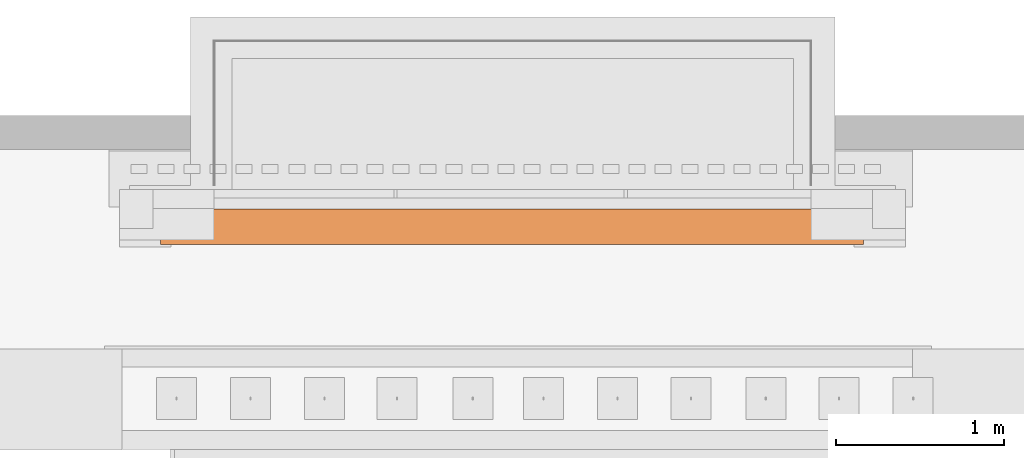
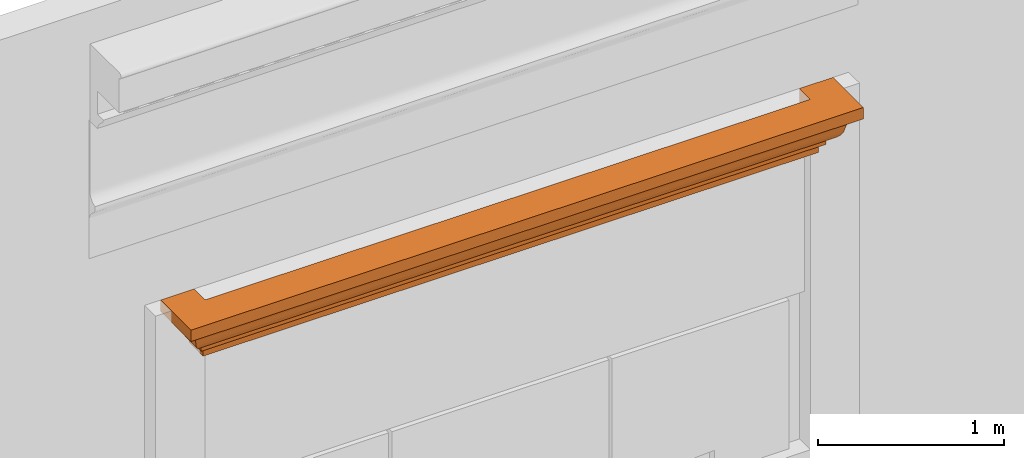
# One storey, part 13 of 14: 1 proxy.
"""IFC2X3 building model written with IfcOpenShell, lengths in metres."""

from ifc_helpers import new_model, entity, si_unit, converted_unit, derived_unit, direction, frame, origin, place, context, subcontext, project, spatial, faceted_brep, material, element, save


model = new_model("IFC2X3")

# Units and contexts
model_context = context("Model", 3, precision=1e-05, world=origin(), true_north=direction((6.12303176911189e-17, 1.0)))
body_context = subcontext(model_context, "Body", "Model", "MODEL_VIEW")
ifc_project = project(units=[si_unit("LENGTHUNIT", "METRE"), si_unit("AREAUNIT", "SQUARE_METRE"), si_unit("VOLUMEUNIT", "CUBIC_METRE"), converted_unit("PLANEANGLEUNIT", "DEGREE", entity("IfcRatioMeasure", 0.0174532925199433), si_unit("PLANEANGLEUNIT", "RADIAN"), dimensions=[0, 0, 0, 0, 0, 0, 0]), si_unit("MASSUNIT", "GRAM", prefix="KILO"), derived_unit("MASSDENSITYUNIT", [(si_unit("MASSUNIT", "GRAM", prefix="KILO"), 1), (si_unit("LENGTHUNIT", "METRE"), -3)]), si_unit("TIMEUNIT", "SECOND"), si_unit("FREQUENCYUNIT", "HERTZ"), si_unit("THERMODYNAMICTEMPERATUREUNIT", "DEGREE_CELSIUS"), derived_unit("THERMALTRANSMITTANCEUNIT", [(si_unit("MASSUNIT", "GRAM", prefix="KILO"), 1), (si_unit("THERMODYNAMICTEMPERATUREUNIT", "KELVIN"), -1), (si_unit("TIMEUNIT", "SECOND"), -3)]), derived_unit("VOLUMETRICFLOWRATEUNIT", [(si_unit("LENGTHUNIT", "METRE"), 3), (si_unit("TIMEUNIT", "SECOND"), -1)]), si_unit("ELECTRICCURRENTUNIT", "AMPERE"), si_unit("ELECTRICVOLTAGEUNIT", "VOLT"), si_unit("POWERUNIT", "WATT"), si_unit("FORCEUNIT", "NEWTON", prefix="KILO"), si_unit("ILLUMINANCEUNIT", "LUX"), si_unit("LUMINOUSFLUXUNIT", "LUMEN"), si_unit("LUMINOUSINTENSITYUNIT", "CANDELA"), derived_unit("USERDEFINED", [(si_unit("MASSUNIT", "GRAM", prefix="KILO"), -1), (si_unit("LENGTHUNIT", "METRE"), -2), (si_unit("TIMEUNIT", "SECOND"), 3), (si_unit("LUMINOUSFLUXUNIT", "LUMEN"), 1)]), derived_unit("LINEARVELOCITYUNIT", [(si_unit("LENGTHUNIT", "METRE"), 1), (si_unit("TIMEUNIT", "SECOND"), -1)]), si_unit("PRESSUREUNIT", "PASCAL"), derived_unit("USERDEFINED", [(si_unit("LENGTHUNIT", "METRE"), -2), (si_unit("MASSUNIT", "GRAM", prefix="KILO"), 1), (si_unit("TIMEUNIT", "SECOND"), -2)])], contexts=[model_context])

# Site, building, storey
site_placement = place(None, origin())
site = spatial("IfcSite", under=ifc_project, at=site_placement, Name="Default", CompositionType="ELEMENT")
building_placement = place(site_placement, origin())
building = spatial("IfcBuilding", under=site, at=building_placement, CompositionType="ELEMENT")
storey_placement = place(building_placement, frame((0.0, 0.0, 13.366833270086)))
storey = spatial("IfcBuildingStorey", under=building, at=storey_placement, Name="Livello 2", CompositionType="ELEMENT", Elevation=13.366833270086)

# Proxy
ifc_material = material(Name="Travertino")
proxy_placement = place(storey_placement, frame((-9.26131853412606, 0.6976591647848, 7.72619310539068)))
element("IfcBuildingElementProxy", 1, at=proxy_placement, inside=storey, material=ifc_material, Name="Stratigrafia", context=body_context, shape_type="Brep", body=[
    faceted_brep([(0.0238381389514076, 0.327873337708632, 0.256423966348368), (0.00159527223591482, 0.327873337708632, 0.264509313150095), (0.00137691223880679, 0.327873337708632, 0.33947525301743), (0.210222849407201, 0.327873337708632, 0.33947525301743), (0.210222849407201, 0.327873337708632, 0.0), (0.177714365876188, 0.327873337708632, 0.0), (0.177602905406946, 0.327873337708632, 0.060083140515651), (0.148474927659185, 0.327873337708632, 0.060083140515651), (0.148474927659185, 0.327873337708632, 0.0966946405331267), (0.125981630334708, 0.327873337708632, 0.104804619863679), (0.10618583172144, 0.327873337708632, 0.118215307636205), (0.0903123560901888, 0.327873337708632, 0.136096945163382), (0.0793433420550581, 0.327873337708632, 0.157343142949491), (0.0739574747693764, 0.327873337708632, 0.180639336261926), (0.069218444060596, 0.327873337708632, 0.203826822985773), (0.0587808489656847, 0.327873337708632, 0.225067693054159), (0.0433204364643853, 0.327873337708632, 0.242986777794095), (4.17513991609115, 0.327873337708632, 0.33947525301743), (4.17492155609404, 0.327873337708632, 0.264509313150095), (4.15267868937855, 0.327873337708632, 0.256423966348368), (4.13319639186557, 0.327873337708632, 0.242986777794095), (4.11773597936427, 0.327873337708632, 0.225067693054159), (4.10729838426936, 0.327873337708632, 0.203826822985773), (4.10255935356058, 0.327873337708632, 0.180639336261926), (4.0971734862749, 0.327873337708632, 0.157343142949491), (4.08620447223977, 0.327873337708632, 0.136096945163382), (4.07033099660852, 0.327873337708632, 0.118215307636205), (4.05053519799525, 0.327873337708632, 0.104804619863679), (4.02804190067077, 0.327873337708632, 0.0966946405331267), (4.02804190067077, 0.327873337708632, 0.060083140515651), (3.99891392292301, 0.327873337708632, 0.060083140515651), (3.99880246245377, 0.327873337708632, 0.0), (3.96629397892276, 0.327873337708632, 0.0), (3.96629397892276, 0.327873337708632, 0.33947525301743), (3.99880246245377, 0.177714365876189, 0.0), (0.177714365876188, 0.177714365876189, 0.0), (0.210222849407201, 0.210222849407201, 0.0), (3.96629397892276, 0.210222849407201, 0.0), (0.177602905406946, 0.177602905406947, 0.060083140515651), (4.02804190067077, 0.148474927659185, 0.060083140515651), (0.148474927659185, 0.148474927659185, 0.060083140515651), (3.99891392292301, 0.177602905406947, 0.060083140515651), (0.148474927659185, 0.148474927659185, 0.0966946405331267), (0.125981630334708, 0.125981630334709, 0.104804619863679), (0.106185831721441, 0.106185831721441, 0.118215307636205), (0.0903123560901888, 0.0903123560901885, 0.136096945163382), (0.0793433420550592, 0.0793433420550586, 0.157343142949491), (0.0739574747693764, 0.0739574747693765, 0.180639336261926), (0.069218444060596, 0.0692184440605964, 0.203826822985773), (0.0587808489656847, 0.0587808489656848, 0.225067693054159), (0.0433204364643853, 0.043320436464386, 0.242986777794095), (0.0238381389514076, 0.023838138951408, 0.256423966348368), (0.0015952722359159, 0.00159527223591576, 0.264509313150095), (0.0013769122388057, 0.00137691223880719, 0.33947525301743), (4.17513991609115, 0.00137691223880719, 0.33947525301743), (3.96629397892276, 0.210222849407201, 0.33947525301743), (0.210222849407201, 0.210222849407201, 0.33947525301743), (4.02804190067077, 0.148474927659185, 0.0966946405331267), (3.45760718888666, 0.148474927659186, 0.0966946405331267), (2.88719634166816, 0.148474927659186, 0.0966946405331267), (2.20252195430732, 0.148474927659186, 0.0966946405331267), (1.51784756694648, 0.148474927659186, 0.0966946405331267), (0.833173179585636, 0.148474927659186, 0.0966946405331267), (0.490812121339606, 0.148474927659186, 0.0966946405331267), (3.60473155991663, 0.097218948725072, 0.12719634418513), (4.08620447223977, 0.0903123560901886, 0.136096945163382), (3.41644363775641, 0.083844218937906, 0.147003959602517), (3.66972915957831, 0.0773610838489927, 0.163344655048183), (4.10255935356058, 0.073957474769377, 0.180639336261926), (3.42905273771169, 0.073957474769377, 0.180639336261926), (3.41784672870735, 0.073957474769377, 0.180639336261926), (3.24592256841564, 0.0926591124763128, 0.132825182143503), (3.38476724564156, 0.114618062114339, 0.111611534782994), (0.570969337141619, 0.0972197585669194, 0.127195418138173), (0.933991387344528, 0.0994666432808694, 0.12471467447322), (0.757288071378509, 0.0838455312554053, 0.147001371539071), (3.17240915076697, 0.131839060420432, 0.102067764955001), (4.0971734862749, 0.0793433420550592, 0.157343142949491), (2.91695442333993, 0.0834349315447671, 0.147820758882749), (2.87824336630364, 0.0965026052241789, 0.128024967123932), (0.501660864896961, 0.0775219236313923, 0.162803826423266), (0.908522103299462, 0.077236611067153, 0.163771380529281), (0.718868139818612, 0.0739574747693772, 0.180639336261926), (4.07033099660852, 0.106185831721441, 0.118215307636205), (4.05053519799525, 0.125981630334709, 0.104804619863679), (1.2383928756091, 0.0832695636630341, 0.148156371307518), (1.70617646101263, 0.0809837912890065, 0.153177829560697), (1.40303287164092, 0.0774148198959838, 0.163162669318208), (1.86017699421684, 0.124588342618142, 0.10552803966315), (1.29327390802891, 0.125203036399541, 0.10520531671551), (0.788966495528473, 0.114622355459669, 0.111608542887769), (2.39085728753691, 0.0821777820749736, 0.150459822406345), (2.73316907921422, 0.073957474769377, 0.180639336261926), (2.09447732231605, 0.073957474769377, 0.180639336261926), (2.04849142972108, 0.073957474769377, 0.180639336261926), (2.73486197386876, 0.119993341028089, 0.108125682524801), (2.05391032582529, 0.0886736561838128, 0.138566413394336), (1.70636229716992, 0.0963719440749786, 0.128178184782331), (3.27328563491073, 0.0773507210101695, 0.163379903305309), (3.60264195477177, 0.130083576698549, 0.102837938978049), (0.661985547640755, 0.131193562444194, 0.102346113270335), (1.1665838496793, 0.109529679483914, 0.115413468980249), (2.44757953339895, 0.094012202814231, 0.131062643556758), (2.46471933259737, 0.107759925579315, 0.116864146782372), (2.08507319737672, 0.101834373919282, 0.122278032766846), (2.30275884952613, 0.124003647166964, 0.105840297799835), (1.42097070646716, 0.0739574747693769, 0.180639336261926), (1.36381378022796, 0.073957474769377, 0.180639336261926), (1.5669808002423, 0.10973973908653, 0.115245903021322), (1.29186107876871, 0.0965088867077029, 0.128017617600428), (2.89578625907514, 0.0769913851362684, 0.164634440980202), (2.76798393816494, 0.073957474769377, 0.180639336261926), (0.747464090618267, 0.073957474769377, 0.180639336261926), (3.42684012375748, 0.0643828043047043, 0.215375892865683), (3.23753277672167, 0.0708750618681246, 0.198450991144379), (3.66817274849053, 0.0708596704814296, 0.198506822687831), (4.13319639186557, 0.0433204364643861, 0.242986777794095), (4.15267868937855, 0.0238381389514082, 0.256423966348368), (3.84733862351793, 0.0335673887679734, 0.250629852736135), (1.75772232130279, 0.0681276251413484, 0.206848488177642), (1.222860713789, 0.069272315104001, 0.203668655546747), (0.331018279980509, 0.0335646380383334, 0.250631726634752), (0.53785393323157, 0.0511644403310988, 0.235048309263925), (1.44288563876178, 0.0617669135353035, 0.220238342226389), (3.45839263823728, 0.0329844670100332, 0.251023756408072), (3.27584706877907, 0.055457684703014, 0.229769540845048), (3.63961990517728, 0.0511653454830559, 0.23504727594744), (0.721364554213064, 0.0329795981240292, 0.251027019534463), (0.409778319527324, 0.0163768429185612, 0.259864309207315), (0.859869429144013, 0.0710721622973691, 0.197723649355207), (0.47452321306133, 0.0714027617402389, 0.196447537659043), (0.363791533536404, 0.0645494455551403, 0.215041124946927), (2.92161151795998, 0.0504819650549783, 0.235818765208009), (2.77856545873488, 0.0666439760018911, 0.210510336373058), (1.24949306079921, 0.0244347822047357, 0.256113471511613), (1.81765077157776, 0.0230887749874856, 0.256806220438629), (1.48088218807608, 0.00159527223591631, 0.264509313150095), (4.10729838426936, 0.069218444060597, 0.203826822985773), (4.11773597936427, 0.058780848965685, 0.225067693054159), (3.76645269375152, 0.0163928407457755, 0.259857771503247), (3.50141171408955, 0.00159527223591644, 0.264509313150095), (3.39015432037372, 0.0176866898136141, 0.259317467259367), (2.36847529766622, 0.0452274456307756, 0.241226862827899), (1.97612138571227, 0.0403591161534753, 0.245533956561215), (2.09541747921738, 0.0550700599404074, 0.230279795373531), (2.82790187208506, 0.00159527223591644, 0.264509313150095), (2.92695321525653, 0.0292533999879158, 0.253397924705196), (0.675105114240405, 0.00159527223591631, 0.264509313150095), (1.07797688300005, 0.00159527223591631, 0.264509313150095), (0.785534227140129, 0.0176734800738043, 0.259323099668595), (0.755933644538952, 0.064380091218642, 0.215381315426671), (0.900513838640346, 0.0476089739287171, 0.238883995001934), (1.17496369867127, 0.0384456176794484, 0.247069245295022), (2.269247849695, 0.0676392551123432, 0.208104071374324), (4.17492155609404, 0.00159527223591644, 0.264509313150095), (2.53552699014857, 0.0580145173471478, 0.226208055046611), (2.15439203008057, 0.00159527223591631, 0.264509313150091), (1.68420473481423, 0.0525253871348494, 0.233458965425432), (2.38738256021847, 0.0297756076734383, 0.253080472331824), (1.53843242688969, 0.0385285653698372, 0.247004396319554), (1.26930525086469, 0.0504681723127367, 0.235834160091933)], [[[0, 1, 2, 3, 4, 5, 6, 7, 8, 9, 10, 11, 12, 13, 14, 15, 16]], [[17, 18, 19, 20, 21, 22, 23, 24, 25, 26, 27, 28, 29, 30, 31, 32, 33]], [[32, 31, 34, 35, 5, 4, 36, 37]], [[6, 5, 35, 38]], [[30, 29, 39, 40, 7, 6, 38, 41]], [[8, 7, 40, 42]], [[9, 8, 42, 43]], [[10, 9, 43, 44]], [[44, 45, 11, 10]], [[12, 11, 45, 46]], [[13, 12, 46, 47]], [[14, 13, 47, 48]], [[15, 14, 48, 49]], [[49, 50, 16, 15]], [[0, 16, 50, 51]], [[1, 0, 51, 52]], [[2, 1, 52, 53]], [[3, 2, 53, 54, 17, 33, 55, 56]], [[4, 3, 56, 36]], [[38, 35, 34, 41]], [[42, 40, 39, 57, 58, 59, 60, 61, 62, 63]], [[64, 65, 66]], [[67, 68, 69, 70]], [[64, 71, 72]], [[73, 74, 75]], [[76, 59, 58]], [[45, 75, 46]], [[45, 44, 73]], [[77, 66, 65]], [[71, 78, 79]], [[80, 46, 75]], [[81, 82, 80]], [[83, 72, 84]], [[85, 86, 87]], [[75, 45, 73]], [[83, 65, 64]], [[88, 89, 61]], [[44, 43, 90]], [[91, 92, 93, 94]], [[76, 95, 59]], [[96, 86, 97]], [[43, 42, 63]], [[66, 98, 78]], [[95, 72, 79]], [[99, 72, 76]], [[100, 63, 62]], [[89, 62, 61]], [[77, 67, 66]], [[66, 67, 98]], [[44, 90, 73]], [[84, 99, 57]], [[90, 101, 74]], [[71, 64, 66]], [[46, 80, 47]], [[72, 83, 64]], [[79, 102, 103]], [[104, 105, 103]], [[87, 94, 106, 107]], [[108, 101, 89]], [[60, 88, 61]], [[59, 95, 105]], [[91, 94, 86]], [[91, 96, 102]], [[81, 85, 87]], [[97, 109, 108]], [[103, 105, 95]], [[104, 97, 108]], [[108, 89, 88]], [[89, 90, 100]], [[89, 100, 62]], [[63, 100, 43]], [[43, 100, 90]], [[104, 108, 88]], [[101, 108, 109]], [[96, 97, 104]], [[85, 97, 86]], [[102, 96, 104]], [[86, 96, 91]], [[103, 102, 104]], [[102, 79, 78]], [[105, 104, 88]], [[79, 103, 95]], [[88, 60, 105]], [[59, 105, 60]], [[74, 101, 109]], [[89, 101, 90]], [[74, 109, 85]], [[90, 74, 73]], [[99, 76, 58]], [[95, 76, 72]], [[57, 99, 58]], [[84, 72, 99]], [[68, 67, 77]], [[98, 67, 70]], [[110, 70, 111, 92]], [[110, 91, 78]], [[110, 78, 98]], [[102, 78, 91]], [[81, 80, 75]], [[47, 80, 82]], [[81, 75, 85]], [[81, 107, 112, 82]], [[74, 85, 75]], [[97, 85, 109]], [[78, 71, 66]], [[72, 71, 79]], [[70, 110, 98]], [[91, 110, 92]], [[94, 87, 86]], [[81, 87, 107]], [[113, 114, 115]], [[116, 117, 118]], [[106, 119, 120]], [[121, 50, 122]], [[119, 123, 120]], [[50, 49, 122]], [[124, 125, 126]], [[121, 127, 128]], [[129, 130, 112]], [[51, 50, 121]], [[48, 131, 49]], [[132, 133, 125]], [[124, 126, 118]], [[134, 135, 136]], [[113, 137, 138]], [[116, 126, 138]], [[139, 140, 141]], [[142, 143, 144]], [[130, 131, 48]], [[141, 145, 146]], [[115, 69, 68]], [[128, 147, 52]], [[146, 142, 132]], [[139, 118, 117]], [[148, 149, 134]], [[122, 150, 151]], [[113, 115, 137]], [[133, 111, 114]], [[151, 152, 127]], [[47, 130, 48]], [[150, 122, 131]], [[126, 113, 138]], [[113, 126, 125]], [[153, 93, 92, 111]], [[154, 139, 117]], [[144, 155, 142]], [[119, 106, 94, 93]], [[156, 136, 135]], [[144, 153, 155]], [[119, 153, 144]], [[157, 123, 119]], [[144, 157, 119]], [[158, 156, 135]], [[144, 143, 157]], [[158, 145, 156]], [[134, 152, 159]], [[135, 159, 143]], [[128, 127, 149]], [[129, 112, 107, 106]], [[160, 150, 123]], [[120, 123, 150]], [[157, 160, 123]], [[143, 159, 157]], [[160, 157, 159]], [[143, 158, 135]], [[158, 143, 142]], [[160, 159, 152]], [[134, 159, 135]], [[158, 142, 146]], [[133, 132, 155]], [[142, 155, 132]], [[153, 133, 155]], [[133, 153, 111]], [[153, 119, 93]], [[160, 152, 151]], [[152, 134, 127]], [[160, 151, 150]], [[122, 151, 127]], [[49, 131, 122]], [[150, 129, 120]], [[131, 130, 150]], [[130, 47, 82, 112]], [[130, 129, 150]], [[120, 129, 106]], [[116, 118, 126]], [[139, 141, 124]], [[118, 139, 124]], [[140, 139, 154]], [[124, 141, 146]], [[141, 140, 145]], [[124, 146, 132]], [[158, 146, 145]], [[51, 121, 128]], [[127, 121, 122]], [[51, 128, 52]], [[149, 147, 128]], [[134, 136, 148]], [[149, 127, 134]], [[148, 147, 149]], [[137, 115, 68]], [[69, 115, 114]], [[114, 111, 70, 69]], [[114, 113, 133]], [[113, 125, 133]], [[132, 125, 124]], [[53, 52, 147, 148, 136, 156, 145, 140, 154, 54]], [[36, 56, 55, 37]], [[41, 34, 31, 30]], [[57, 39, 29, 28]], [[57, 28, 27, 84]], [[84, 27, 26, 83]], [[26, 25, 65, 83]], [[65, 25, 24, 77]], [[77, 24, 23, 68]], [[21, 138, 137, 22]], [[22, 137, 68, 23]], [[21, 20, 116, 138]], [[18, 154, 117, 19]], [[19, 117, 116, 20]], [[54, 154, 18, 17]], [[37, 55, 33, 32]]]),
])

save(model, "model.ifc")
